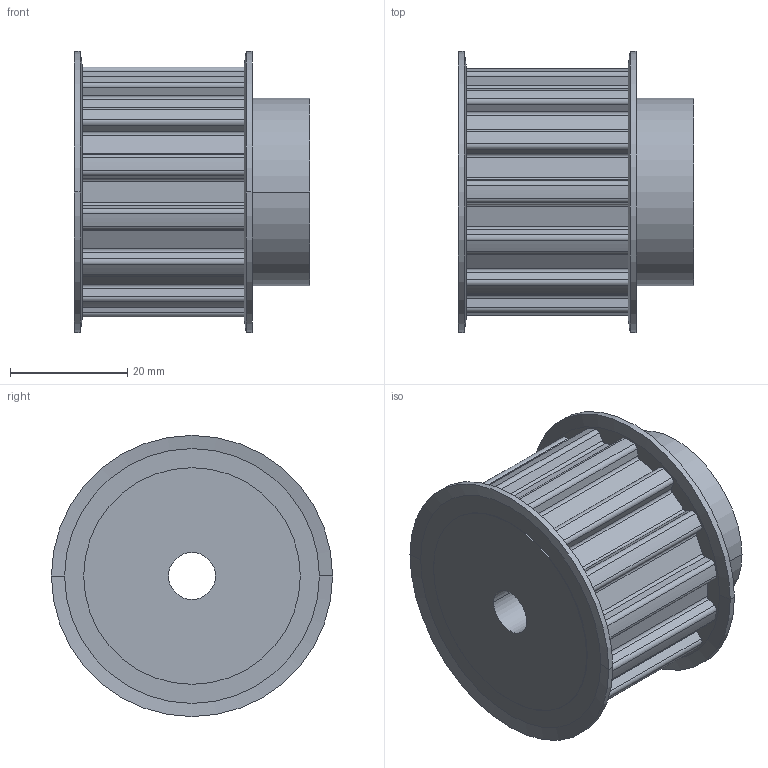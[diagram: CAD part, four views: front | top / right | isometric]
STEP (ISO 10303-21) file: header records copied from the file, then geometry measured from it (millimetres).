
FILE_DESCRIPTION( ( '' ), '1' );
FILE_NAME( 'C:/Users/Stangenbergd/Documents/CAD_Step/1/16431400.stp', '2021-10-19T08:54:58', ( '' ), ( '' ), ' ', ' ', ' ' );
FILE_SCHEMA( ( 'CONFIG_CONTROL_DESIGN' ) );
Length unit declared in the file: millimetre
Products named in the file (1): 1
Bounding box: 40.17 x 48 x 48 mm (x, y, z)
Volume: 44497.1 mm3; surface area: 11758.5 mm2
Topology: 1 solids, 1 shells, 139 faces, 388 edges, 256 vertices
Faces by surface type: cylinder 82, plane 49, cone 8
Entity records: 4578 total; most frequent: DIRECTION 840, CARTESIAN_POINT 784, ORIENTED_EDGE 776, EDGE_CURVE 388, AXIS2_PLACEMENT_3D 312, VERTEX_POINT 256, LINE 216, VECTOR 216
